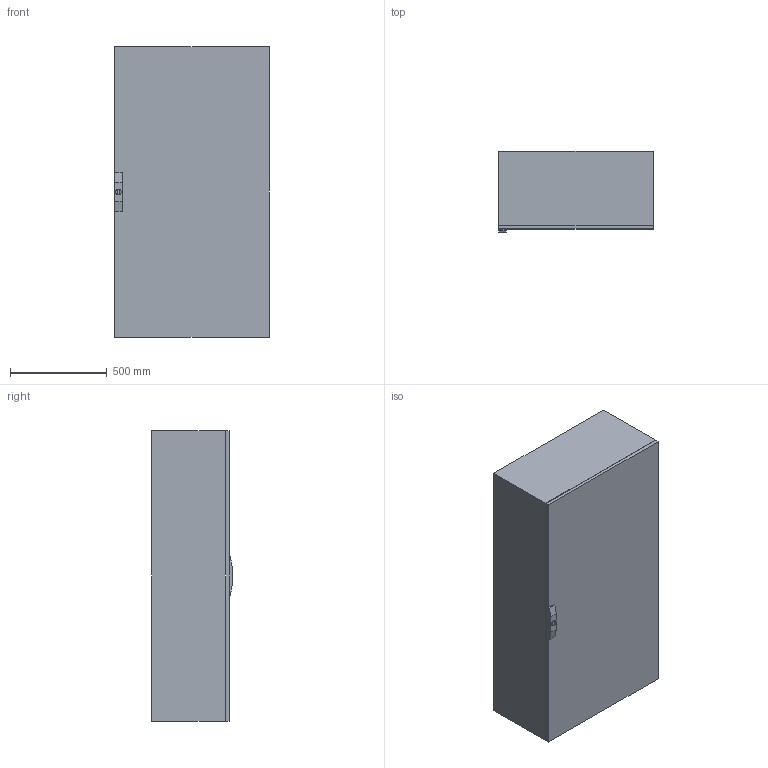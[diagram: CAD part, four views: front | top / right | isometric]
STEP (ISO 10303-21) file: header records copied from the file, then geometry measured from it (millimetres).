
FILE_DESCRIPTION(('FreeCAD Model'),'2;1');
FILE_NAME('/home/martin/Documents/ARMARIOS/3D/001.step', '2022-06-26T06:40:55',('FreeCAD'),('FreeCAD'), 'Open CASCADE STEP processor 7.3','FreeCAD','Unknown');
FILE_SCHEMA(('AUTOMOTIVE_DESIGN { 1 0 10303 214 1 1 1 1 }'));
Length unit declared in the file: millimetre
Products named in the file (4): Open CASCADE STEP translator 7.3 3; Open CASCADE STEP translator 7.3 3.1; Open CASCADE STEP translator 7.3 3.2; Open CASCADE STEP translator 7.3 3.3
Assembly tree (3 placements, depth 2):
  Open CASCADE STEP translator 7.3 3
    Open CASCADE STEP translator 7.3 3.1
    Open CASCADE STEP translator 7.3 3.2
    Open CASCADE STEP translator 7.3 3.3
Bounding box: 800 x 417 x 1500 mm (x, y, z)
Volume: 477708506.9 mm3; surface area: 6652913.5 mm2
Topology: 3 solids, 3 shells, 27 faces, 57 edges, 38 vertices
Faces by surface type: plane 26, cylinder 1
Full cylindrical faces by diameter (mm): 30 x1
Entity records: 1517 total; most frequent: CARTESIAN_POINT 246, DIRECTION 234, LINE 167, VECTOR 167, ORIENTED_EDGE 114, PCURVE 114, DEFINITIONAL_REPRESENTATION 114, EDGE_CURVE 57
